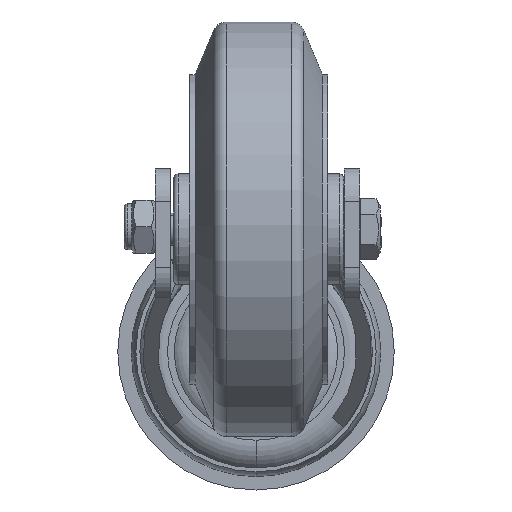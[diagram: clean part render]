
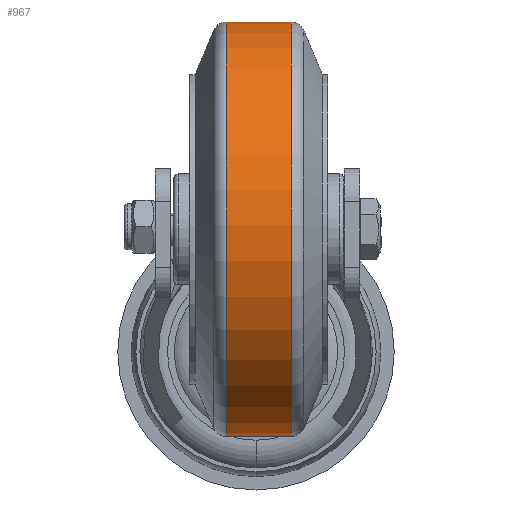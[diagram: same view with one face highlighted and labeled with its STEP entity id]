
A CAD part, front view. The second image highlights one B-rep face of the part: STEP entity #967.
In plain terms, the highlighted cylindrical face has radius 75 mm (diameter 150 mm), a partial arc.
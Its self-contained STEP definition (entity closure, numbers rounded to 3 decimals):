
#967 = ADVANCED_FACE ( 'NONE', ( #5057 ), #5053, .T. ) ;
#968 = EDGE_LOOP ( 'NONE', ( #969, #970, #972, #973 ) ) ;
#969 = ORIENTED_EDGE ( 'NONE', *, *, #9789, .F. ) ;
#970 = ORIENTED_EDGE ( 'NONE', *, *, #971, .T. ) ;
#971 = EDGE_CURVE ( 'NONE', #9731, #9659, #5048, .T. ) ;
#972 = ORIENTED_EDGE ( 'NONE', *, *, #9795, .T. ) ;
#973 = ORIENTED_EDGE ( 'NONE', *, *, #14402, .F. ) ;
#5044 = DIRECTION ( 'NONE',  ( 0., 0., -1. ) ) ;
#5045 = DIRECTION ( 'NONE',  ( 0., -1., 0. ) ) ;
#5046 = CARTESIAN_POINT ( 'NONE',  ( 0., 52.68, 0. ) ) ;
#5047 = AXIS2_PLACEMENT_3D ( 'NONE', #5046, #5045, #5044 ) ;
#5048 = CIRCLE ( 'NONE', #5047, 75. ) ;
#5049 = DIRECTION ( 'NONE',  ( 0., 0., -1. ) ) ;
#5050 = DIRECTION ( 'NONE',  ( 0., -1., 0. ) ) ;
#5051 = CARTESIAN_POINT ( 'NONE',  ( 0., 0., 0. ) ) ;
#5052 = AXIS2_PLACEMENT_3D ( 'NONE', #5051, #5050, #5049 ) ;
#5053 = CYLINDRICAL_SURFACE ( 'NONE', #5052, 75. ) ;
#5057 = FACE_OUTER_BOUND ( 'NONE', #968, .T. ) ;
#9659 = VERTEX_POINT ( 'NONE', #12657 ) ;
#9731 = VERTEX_POINT ( 'NONE', #12497 ) ;
#9789 = EDGE_CURVE ( 'NONE', #9731, #9790, #12864, .T. ) ;
#9790 = VERTEX_POINT ( 'NONE', #12860 ) ;
#9793 = VERTEX_POINT ( 'NONE', #12854 ) ;
#9795 = EDGE_CURVE ( 'NONE', #9659, #9793, #12853, .T. ) ;
#12497 = CARTESIAN_POINT ( 'NONE',  ( 0., 52.68, 75. ) ) ;
#12657 = CARTESIAN_POINT ( 'NONE',  ( 0., 52.68, -75. ) ) ;
#12850 = DIRECTION ( 'NONE',  ( 0., -1., 0. ) ) ;
#12851 = VECTOR ( 'NONE', #12850, 1000. ) ;
#12852 = CARTESIAN_POINT ( 'NONE',  ( 0., 0., -75. ) ) ;
#12853 = LINE ( 'NONE', #12852, #12851 ) ;
#12854 = CARTESIAN_POINT ( 'NONE',  ( 0., 29.32, -75. ) ) ;
#12860 = CARTESIAN_POINT ( 'NONE',  ( 0., 29.32, 75. ) ) ;
#12861 = DIRECTION ( 'NONE',  ( 0., -1., 0. ) ) ;
#12862 = VECTOR ( 'NONE', #12861, 1000. ) ;
#12863 = CARTESIAN_POINT ( 'NONE',  ( 0., 0., 75. ) ) ;
#12864 = LINE ( 'NONE', #12863, #12862 ) ;
#13063 = CARTESIAN_POINT ( 'NONE',  ( 0., 29.32, 0. ) ) ;
#13064 = AXIS2_PLACEMENT_3D ( 'NONE', #13063, #13086, #13085 ) ;
#13065 = CIRCLE ( 'NONE', #13064, 75. ) ;
#13085 = DIRECTION ( 'NONE',  ( 0., 0., -1. ) ) ;
#13086 = DIRECTION ( 'NONE',  ( 0., -1., 0. ) ) ;
#14402 = EDGE_CURVE ( 'NONE', #9790, #9793, #13065, .T. ) ;
